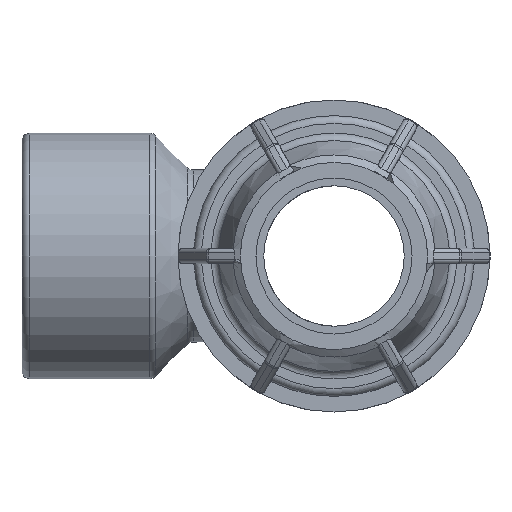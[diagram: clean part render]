
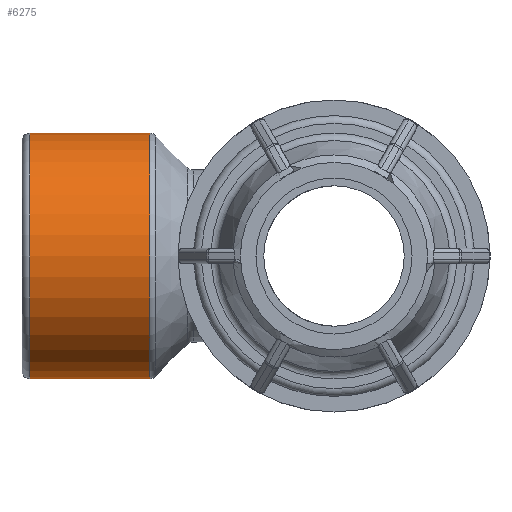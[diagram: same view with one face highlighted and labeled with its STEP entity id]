
A CAD part, left-side view. The second image highlights one B-rep face of the part: STEP entity #6275.
In plain terms, the highlighted cylindrical face has radius 19.689 mm (diameter 39.378 mm), a full revolution.
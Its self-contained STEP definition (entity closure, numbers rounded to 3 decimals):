
#1262=FACE_BOUND('',#2115,.T.);
#1672=FACE_OUTER_BOUND('',#2114,.T.);
#2114=EDGE_LOOP('',(#5734));
#2115=EDGE_LOOP('',(#5735));
#2467=CIRCLE('',#7026,19.689);
#2469=CIRCLE('',#7029,19.689);
#3007=VERTEX_POINT('',#11972);
#3009=VERTEX_POINT('',#11977);
#3919=EDGE_CURVE('',#3007,#3007,#2467,.T.);
#3921=EDGE_CURVE('',#3009,#3009,#2469,.T.);
#5734=ORIENTED_EDGE('',*,*,#3921,.F.);
#5735=ORIENTED_EDGE('',*,*,#3919,.F.);
#5870=CYLINDRICAL_SURFACE('',#7028,19.689);
#6275=ADVANCED_FACE('',(#1672,#1262),#5870,.T.);
#7026=AXIS2_PLACEMENT_3D('',#11973,#8886,#8887);
#7028=AXIS2_PLACEMENT_3D('',#11976,#8890,#8891);
#7029=AXIS2_PLACEMENT_3D('',#11978,#8892,#8893);
#8886=DIRECTION('center_axis',(0.,1.,0.));
#8887=DIRECTION('ref_axis',(1.,0.,0.));
#8890=DIRECTION('center_axis',(0.,1.,0.));
#8891=DIRECTION('ref_axis',(-1.,0.,0.));
#8892=DIRECTION('center_axis',(0.,-1.,0.));
#8893=DIRECTION('ref_axis',(1.,0.,0.));
#11972=CARTESIAN_POINT('',(-19.689,48.75,0.));
#11973=CARTESIAN_POINT('Origin',(0.,48.75,0.));
#11976=CARTESIAN_POINT('Origin',(0.,39.5,0.));
#11977=CARTESIAN_POINT('',(-19.689,29.518,0.));
#11978=CARTESIAN_POINT('Origin',(0.,29.518,0.));
